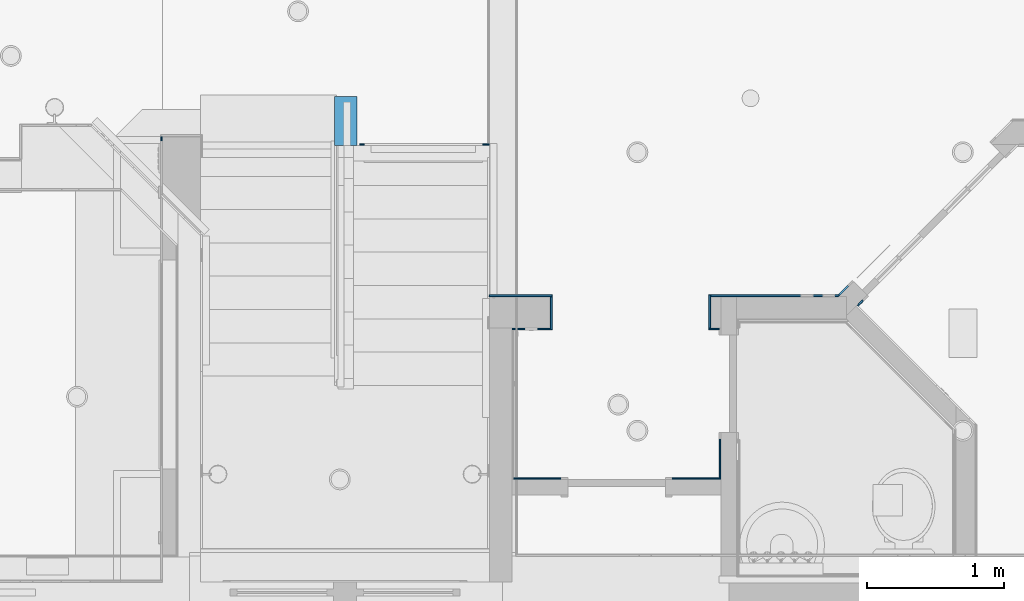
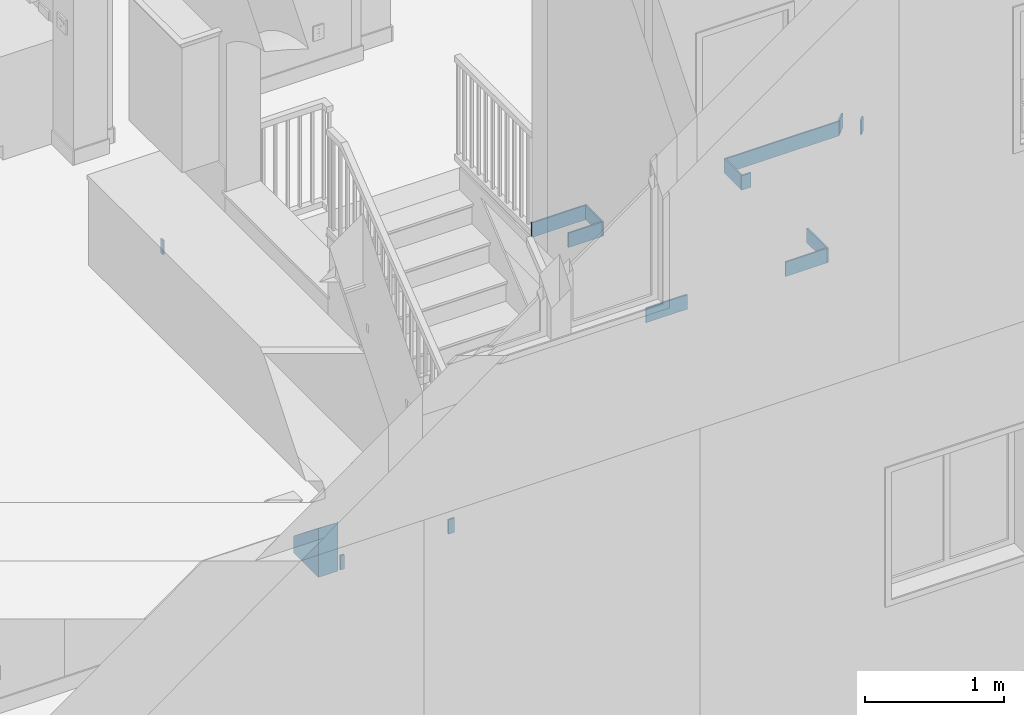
# One storey, part 18 of 81: 15 walls, 1 opening.
"""IFC2X3 building model written with IfcOpenShell, lengths in feet."""

from ifc_helpers import new_model, entity, si_unit, converted_unit, derived_unit, direction, frame, frame_2d, origin, place, context, subcontext, project, spatial, polyline, rectangle, outline, extrude, material, layer, layer_set, layer_usage, type_object, element, save


model = new_model("IFC2X3")

# Units and contexts
model_context = context("Model", 3, precision=0.0001, world=origin(), true_north=direction((6.12303176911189e-17, 1.0)))
body_context = subcontext(model_context, "Body", "Model", "MODEL_VIEW")
ifc_project = project(units=[converted_unit("LENGTHUNIT", "FOOT", entity("IfcRatioMeasure", 0.3048), si_unit("LENGTHUNIT", "METRE"), dimensions=[1, 0, 0, 0, 0, 0, 0]), converted_unit("AREAUNIT", "SQUARE FOOT", entity("IfcRatioMeasure", 0.09290304), si_unit("AREAUNIT", "SQUARE_METRE"), dimensions=[2, 0, 0, 0, 0, 0, 0]), converted_unit("VOLUMEUNIT", "CUBIC FOOT", entity("IfcRatioMeasure", 0.028316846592), si_unit("VOLUMEUNIT", "CUBIC_METRE"), dimensions=[3, 0, 0, 0, 0, 0, 0]), converted_unit("PLANEANGLEUNIT", "DEGREE", entity("IfcRatioMeasure", 0.0174532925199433), si_unit("PLANEANGLEUNIT", "RADIAN"), dimensions=[0, 0, 0, 0, 0, 0, 0]), si_unit("MASSUNIT", "GRAM", prefix="KILO"), derived_unit("MASSDENSITYUNIT", [(si_unit("MASSUNIT", "GRAM", prefix="KILO"), 1), (si_unit("LENGTHUNIT", "METRE"), -3)]), derived_unit("MOMENTOFINERTIAUNIT", [(si_unit("LENGTHUNIT", "METRE"), 4)]), si_unit("TIMEUNIT", "SECOND"), si_unit("FREQUENCYUNIT", "HERTZ"), si_unit("THERMODYNAMICTEMPERATUREUNIT", "DEGREE_CELSIUS"), derived_unit("THERMALTRANSMITTANCEUNIT", [(si_unit("MASSUNIT", "GRAM", prefix="KILO"), 1), (si_unit("THERMODYNAMICTEMPERATUREUNIT", "KELVIN"), -1), (si_unit("TIMEUNIT", "SECOND"), -3)]), derived_unit("VOLUMETRICFLOWRATEUNIT", [(si_unit("LENGTHUNIT", "METRE"), 3), (si_unit("TIMEUNIT", "SECOND"), -1)]), si_unit("ELECTRICCURRENTUNIT", "AMPERE"), si_unit("ELECTRICVOLTAGEUNIT", "VOLT"), si_unit("POWERUNIT", "WATT"), si_unit("FORCEUNIT", "NEWTON"), si_unit("ILLUMINANCEUNIT", "LUX"), si_unit("LUMINOUSFLUXUNIT", "LUMEN"), si_unit("LUMINOUSINTENSITYUNIT", "CANDELA"), derived_unit("USERDEFINED", [(si_unit("MASSUNIT", "GRAM", prefix="KILO"), -1), (si_unit("LENGTHUNIT", "METRE"), -2), (si_unit("TIMEUNIT", "SECOND"), 3), (si_unit("LUMINOUSFLUXUNIT", "LUMEN"), 1)]), derived_unit("LINEARVELOCITYUNIT", [(si_unit("LENGTHUNIT", "METRE"), 1), (si_unit("TIMEUNIT", "SECOND"), -1)]), si_unit("PRESSUREUNIT", "PASCAL"), derived_unit("USERDEFINED", [(si_unit("LENGTHUNIT", "METRE"), -2), (si_unit("MASSUNIT", "GRAM", prefix="KILO"), 1), (si_unit("TIMEUNIT", "SECOND"), -2)]), derived_unit("LINEARFORCEUNIT", [(si_unit("MASSUNIT", "GRAM", prefix="KILO"), 1), (si_unit("LENGTHUNIT", "METRE"), 1), (si_unit("TIMEUNIT", "SECOND"), -2), (si_unit("LENGTHUNIT", "METRE"), -1)]), derived_unit("PLANARFORCEUNIT", [(si_unit("MASSUNIT", "GRAM", prefix="KILO"), 1), (si_unit("LENGTHUNIT", "METRE"), 1), (si_unit("TIMEUNIT", "SECOND"), -2), (si_unit("LENGTHUNIT", "METRE"), -2)])], contexts=[model_context])

# Site, building, storey
site_placement = place(None, origin())
site = spatial("IfcSite", under=ifc_project, at=site_placement, Name="Default", CompositionType="ELEMENT")
building_placement = place(site_placement, origin())
building = spatial("IfcBuilding", under=site, at=building_placement, CompositionType="ELEMENT")
storey_placement = place(building_placement, origin())
storey = spatial("IfcBuildingStorey", under=building, at=storey_placement, Name="First floor", CompositionType="ELEMENT", Elevation=0.0)

# Wall, opening
ifc_material = material(Name="Default New Material")
ifc_layer_1 = layer(ifc_material, 0.541666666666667)
ifc_layer_set_1 = layer_set([ifc_layer_1], Name="Basic Wall:Wall_6.5\"")
ifc_layer_usage_1 = layer_usage(ifc_layer_set_1, "AXIS2", "NEGATIVE", 0.270833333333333)
wall_type_1 = type_object("IfcWallType", Name="Basic Wall:Wall_6.5\"", PredefinedType="STANDARD", material=ifc_layer_set_1)
wall_1_placement = place(storey_placement, frame((16.9374999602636, 12.1666666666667, 0.0), z_axis=(0.0, 0.0, 1.0), x_axis=(0.0, -1.0, 0.0)))
wall_1 = element("IfcWallStandardCase", 1, at=wall_1_placement, inside=storey, type_object=wall_type_1, material=ifc_layer_usage_1, Name="Basic Wall:Wall_6.5\"", ObjectType="Basic Wall:Wall_6.5\"", context=body_context, shape_type="SweptSolid", body=[
    extrude(rectangle(XDim=1.16666666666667, YDim=0.541666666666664, at=frame_2d((0.583333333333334, 0.0), x_axis=(-1.0, 0.0))), origin(), (0.0, 0.0, 1.0), 1.40574026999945),
])
opening_placement = place(wall_1_placement, origin())
element("IfcOpeningElement", 2, at=opening_placement, cuts=wall_1, Name="Basic Wall:Wall_6.5\"", ObjectType="Opening", context=body_context, shape_type="SweptSolid", body=[
    extrude(outline(polyline([(-0.342979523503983, -0.507446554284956), (1.14154507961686, -0.507446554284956), (0.0591505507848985, 0.868163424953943), (-0.857716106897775, 0.146729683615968), (-0.342979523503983, -0.507446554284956)])), frame((0.583333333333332, -0.270833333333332, 1.59244640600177), z_axis=(0.0, 1.0, 0.0), x_axis=(-0.785885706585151, 0.0, -0.618371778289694)), (0.0, 0.0, 1.0), 0.541666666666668),
])

# Walls
ifc_layer_2 = layer(ifc_material, 0.0416666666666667)
ifc_layer_set_2 = layer_set([ifc_layer_2], Name="Basic Wall:Wall Border_T1")
ifc_layer_usage_2 = layer_usage(ifc_layer_set_2, "AXIS2", "POSITIVE", -0.0208333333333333)
wall_type_2 = type_object("IfcWallType", Name="Basic Wall:Wall Border_T1", PredefinedType="STANDARD", material=ifc_layer_set_2)
wall_2_placement = place(storey_placement, frame((20.375, 11.0208333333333, 0.0), z_axis=(0.0, 0.0, 1.0), x_axis=(-1.0, 0.0, 0.0)))
element("IfcWallStandardCase", 3, at=wall_2_placement, inside=storey, type_object=wall_type_2, material=ifc_layer_usage_2, Name="Basic Wall:Wall Border_T1", ObjectType="Basic Wall:Wall Border_T1", context=body_context, shape_type="SweptSolid", body=[
    extrude(rectangle(XDim=0.1666666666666, YDim=0.0416666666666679, at=frame_2d((0.0833333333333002, 0.0), x_axis=(-1.0, 0.0))), origin(), (0.0, 0.0, 1.0), 0.416666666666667),
])
ifc_layer_usage_3 = layer_usage(ifc_layer_set_2, "AXIS2", "POSITIVE", -0.0208333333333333)
wall_3_placement = place(storey_placement, frame((17.375, 11.0208333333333, 0.0), z_axis=(0.0, 0.0, 1.0), x_axis=(-1.0, 0.0, 0.0)))
element("IfcWallStandardCase", 4, at=wall_3_placement, inside=storey, type_object=wall_type_2, material=ifc_layer_usage_3, Name="Basic Wall:Wall Border_T1", ObjectType="Basic Wall:Wall Border_T1", context=body_context, shape_type="SweptSolid", body=[
    extrude(rectangle(XDim=0.104166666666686, YDim=0.0416666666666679, at=frame_2d((0.0520833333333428, 0.0), x_axis=(-1.0, 0.0))), origin(), (0.0, 0.0, 1.0), 0.416666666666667),
])
ifc_layer_usage_4 = layer_usage(ifc_layer_set_2, "AXIS2", "NEGATIVE", 0.0208333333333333)
wall_4_placement = place(storey_placement, frame((12.5208333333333, 11.1041666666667, 10.6666666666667), z_axis=(0.0, 0.0, 1.0), x_axis=(0.0, 1.0, 0.0)))
element("IfcWallStandardCase", 5, at=wall_4_placement, inside=storey, type_object=wall_type_2, material=ifc_layer_usage_4, Name="Basic Wall:Wall Border_T1", ObjectType="Basic Wall:Wall Border_T1", context=body_context, shape_type="SweptSolid", body=[
    extrude(rectangle(XDim=0.103821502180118, YDim=0.0416666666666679, at=frame_2d((0.0519107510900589, 0.0), x_axis=(-1.0, 0.0))), origin(), (0.0, 0.0, 1.0), 0.416666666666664),
])
ifc_layer_usage_5 = layer_usage(ifc_layer_set_2, "AXIS2", "NEGATIVE", 0.0208333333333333)
wall_5_placement = place(storey_placement, frame((20.375, 7.39583333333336, 10.6666666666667)))
element("IfcWallStandardCase", 6, at=wall_5_placement, inside=storey, type_object=wall_type_2, material=ifc_layer_usage_5, Name="Basic Wall:Wall Border_T1", ObjectType="Basic Wall:Wall Border_T1", context=body_context, shape_type="SweptSolid", body=[
    extrude(rectangle(XDim=1.50000000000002, YDim=0.0416666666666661, at=frame_2d((0.750000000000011, -1.94289029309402e-16), x_axis=(-1.0, 0.0))), origin(), (0.0, 0.0, 1.0), 0.416666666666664),
])
ifc_layer_usage_6 = layer_usage(ifc_layer_set_2, "AXIS2", "NEGATIVE", 0.0208333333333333)
wall_6_placement = place(storey_placement, frame((21.8541666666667, 7.37500000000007, 10.6666666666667), z_axis=(0.0, 0.0, 1.0), x_axis=(0.0, -1.0, 0.0)))
element("IfcWallStandardCase", 7, at=wall_6_placement, inside=storey, type_object=wall_type_2, material=ifc_layer_usage_6, Name="Basic Wall:Wall Border_T1", ObjectType="Basic Wall:Wall Border_T1", context=body_context, shape_type="SweptSolid", body=[
    extrude(rectangle(XDim=0.791666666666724, YDim=0.0416666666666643, at=frame_2d((0.395833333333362, -1.47798440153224e-15), x_axis=(-1.0, 0.0))), origin(), (0.0, 0.0, 1.0), 0.416666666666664),
])
ifc_layer_usage_7 = layer_usage(ifc_layer_set_2, "AXIS2", "NEGATIVE", 0.0208333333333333)
wall_7_placement = place(storey_placement, frame((21.8333333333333, 6.60416666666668, 10.6666666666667), z_axis=(0.0, 0.0, 1.0), x_axis=(-1.0, 0.0, 0.0)))
element("IfcWallStandardCase", 8, at=wall_7_placement, inside=storey, type_object=wall_type_2, material=ifc_layer_usage_7, Name="Basic Wall:Wall Border_T1", ObjectType="Basic Wall:Wall Border_T1", context=body_context, shape_type="SweptSolid", body=[
    extrude(rectangle(XDim=0.916666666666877, YDim=0.0416666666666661, at=frame_2d((0.458333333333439, 1.71737624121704e-16), x_axis=(-1.0, 0.0))), origin(), (0.0, 0.0, 1.0), 0.416666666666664),
])
ifc_layer_usage_8 = layer_usage(ifc_layer_set_2, "AXIS2", "NEGATIVE", 0.0208333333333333)
wall_8_placement = place(storey_placement, frame((20.9583333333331, 3.02083333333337, 10.6666666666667)))
element("IfcWallStandardCase", 9, at=wall_8_placement, inside=storey, type_object=wall_type_2, material=ifc_layer_usage_8, Name="Basic Wall:Wall Border_T1", ObjectType="Basic Wall:Wall Border_T1", context=body_context, shape_type="SweptSolid", body=[
    extrude(rectangle(XDim=1.12500000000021, YDim=0.041666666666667, at=frame_2d((0.562500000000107, -6.41847686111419e-17), x_axis=(-1.0, 0.0))), origin(), (0.0, 0.0, 1.0), 0.416666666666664),
])
ifc_layer_usage_9 = layer_usage(ifc_layer_set_2, "AXIS2", "NEGATIVE", 0.0208333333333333)
wall_9_placement = place(storey_placement, frame((25.875, 3.02083333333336, 10.6666666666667), z_axis=(0.0, 0.0, 1.0), x_axis=(-1.0, 0.0, 0.0)))
element("IfcWallStandardCase", 10, at=wall_9_placement, inside=storey, type_object=wall_type_2, material=ifc_layer_usage_9, Name="Basic Wall:Wall Border_T1", ObjectType="Basic Wall:Wall Border_T1", context=body_context, shape_type="SweptSolid", body=[
    extrude(rectangle(XDim=1.125, YDim=0.041666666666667, at=frame_2d((0.562499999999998, 0.0), x_axis=(-1.0, 0.0))), origin(), (0.0, 0.0, 1.0), 0.416666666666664),
])
ifc_layer_usage_10 = layer_usage(ifc_layer_set_2, "AXIS2", "NEGATIVE", 0.0208333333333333)
wall_10_placement = place(storey_placement, frame((25.875, 6.60416666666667, 10.6666666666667), z_axis=(0.0, 0.0, 1.0), x_axis=(-1.0, 0.0, 0.0)))
element("IfcWallStandardCase", 11, at=wall_10_placement, inside=storey, type_object=wall_type_2, material=ifc_layer_usage_10, Name="Basic Wall:Wall Border_T1", ObjectType="Basic Wall:Wall Border_T1", context=body_context, shape_type="SweptSolid", body=[
    extrude(rectangle(XDim=0.250000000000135, YDim=0.0416666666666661, at=frame_2d((0.125000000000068, 0.0), x_axis=(-1.0, 0.0))), origin(), (0.0, 0.0, 1.0), 0.416666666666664),
])
ifc_layer_usage_11 = layer_usage(ifc_layer_set_2, "AXIS2", "NEGATIVE", 0.0208333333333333)
wall_11_placement = place(storey_placement, frame((25.6458333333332, 6.625, 10.6666666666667), z_axis=(0.0, 0.0, 1.0), x_axis=(0.0, 1.0, 0.0)))
element("IfcWallStandardCase", 12, at=wall_11_placement, inside=storey, type_object=wall_type_2, material=ifc_layer_usage_11, Name="Basic Wall:Wall Border_T1", ObjectType="Basic Wall:Wall Border_T1", context=body_context, shape_type="SweptSolid", body=[
    extrude(rectangle(XDim=0.791666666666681, YDim=0.0416666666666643, at=frame_2d((0.395833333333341, 4.02455846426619e-16), x_axis=(-1.0, 0.0))), origin(), (0.0, 0.0, 1.0), 0.416666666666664),
])
ifc_layer_usage_12 = layer_usage(ifc_layer_set_2, "AXIS2", "NEGATIVE", 0.0208333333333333)
wall_12_placement = place(storey_placement, frame((25.6666666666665, 7.39583333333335, 10.6666666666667)))
element("IfcWallStandardCase", 13, at=wall_12_placement, inside=storey, type_object=wall_type_2, material=ifc_layer_usage_12, Name="Basic Wall:Wall Border_T1", ObjectType="Basic Wall:Wall Border_T1", context=body_context, shape_type="SweptSolid", body=[
    extrude(outline(polyline([(3.06196153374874, -0.0208333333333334), (3.10339052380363, 0.0208333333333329), (3.04463278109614, 0.0208333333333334), (0.0, 0.020833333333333), (0.0, -0.0208333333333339), (3.06196153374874, -0.0208333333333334)])), origin(), (0.0, 0.0, 1.0), 0.416666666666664),
])
ifc_layer_usage_13 = layer_usage(ifc_layer_set_2, "AXIS2", "NEGATIVE", 0.0208333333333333)
wall_13_placement = place(storey_placement, frame((28.9585330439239, 7.63577121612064, 10.6666666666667), z_axis=(0.0, 0.0, 1.0), x_axis=(-0.705081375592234, -0.709126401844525, 0.0)))
element("IfcWallStandardCase", 14, at=wall_13_placement, inside=storey, type_object=wall_type_2, material=ifc_layer_usage_13, Name="Basic Wall:Wall Border_T1", ObjectType="Basic Wall:Wall Border_T1", context=body_context, shape_type="SweptSolid", body=[
    extrude(outline(polyline([(0.329692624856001, -0.0208333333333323), (0.288263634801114, 0.0208333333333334), (0.0, 0.0208333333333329), (0.0, -0.0208333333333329), (0.329692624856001, -0.0208333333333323)])), origin(), (0.0, 0.0, 1.0), 0.416666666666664),
])
ifc_layer_usage_14 = layer_usage(ifc_layer_set_2, "AXIS2", "POSITIVE", -0.0208333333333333)
wall_14_placement = place(storey_placement, frame((29.1905383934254, 7.15996956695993, 10.6666666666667), z_axis=(0.0, 0.0, 1.0), x_axis=(0.705081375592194, 0.709126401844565, 0.0)))
element("IfcWallStandardCase", 15, at=wall_14_placement, inside=storey, type_object=wall_type_2, material=ifc_layer_usage_14, Name="Basic Wall:Wall Border_T1", ObjectType="Basic Wall:Wall Border_T1", context=body_context, shape_type="SweptSolid", body=[
    extrude(outline(polyline([(0.173861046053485, -0.020833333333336), (0.173861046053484, 0.0208333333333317), (0.000119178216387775, 0.0208333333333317), (0.0, -0.020833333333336), (0.173861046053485, -0.020833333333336)])), origin(), (0.0, 0.0, 1.0), 0.416666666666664),
])
ifc_layer_usage_15 = layer_usage(ifc_layer_set_2, "AXIS2", "POSITIVE", -0.0208333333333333)
wall_15_placement = place(storey_placement, frame((25.8958333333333, 3.95833333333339, 10.6666666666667), z_axis=(0.0, 0.0, 1.0), x_axis=(0.0, -1.0, 0.0)))
element("IfcWallStandardCase", 16, at=wall_15_placement, inside=storey, type_object=wall_type_2, material=ifc_layer_usage_15, Name="Basic Wall:Wall Border_T1", ObjectType="Basic Wall:Wall Border_T1", context=body_context, shape_type="SweptSolid", body=[
    extrude(rectangle(XDim=0.958333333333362, YDim=0.0416666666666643, at=frame_2d((0.479166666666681, 0.0), x_axis=(-1.0, 0.0))), origin(), (0.0, 0.0, 1.0), 0.416666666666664),
])

save(model, "model.ifc")
